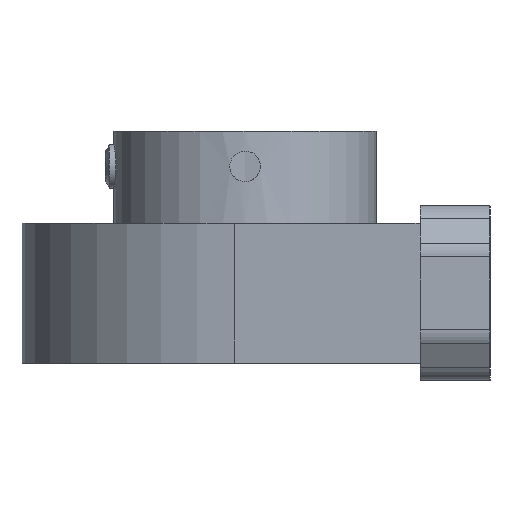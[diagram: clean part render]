
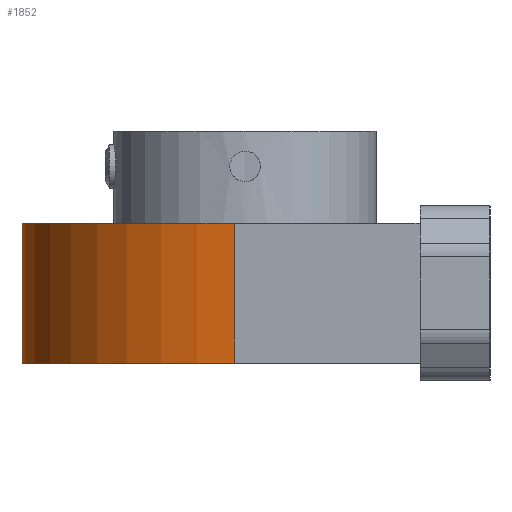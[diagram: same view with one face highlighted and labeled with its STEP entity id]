
A CAD part, left-side view. The second image highlights one B-rep face of the part: STEP entity #1852.
In plain terms, the highlighted cylindrical face has radius 25.5 mm (diameter 51 mm), a partial arc.
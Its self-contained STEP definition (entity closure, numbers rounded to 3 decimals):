
#1412=CARTESIAN_POINT('',(-25.47,1.235,-8.0));
#1413=VERTEX_POINT('',#1412);
#1420=CARTESIAN_POINT('',(25.47,1.235,-8.0));
#1421=VERTEX_POINT('',#1420);
#1422=CARTESIAN_POINT('',(0.0,0.0,-8.0));
#1423=DIRECTION('',(0.0,0.0,1.0));
#1424=DIRECTION('',(0.999,0.048,0.0));
#1425=AXIS2_PLACEMENT_3D('',#1422,#1423,#1424);
#1426=CIRCLE('',#1425,25.5);
#1427=EDGE_CURVE('',#1421,#1413,#1426,.T.);
#1748=CARTESIAN_POINT('',(25.47,1.235,8.0));
#1749=VERTEX_POINT('',#1748);
#1756=CARTESIAN_POINT('',(-25.47,1.235,8.0));
#1757=VERTEX_POINT('',#1756);
#1758=CARTESIAN_POINT('',(0.0,0.0,8.0));
#1759=DIRECTION('',(0.0,0.0,-1.0));
#1760=DIRECTION('',(0.999,0.048,0.0));
#1761=AXIS2_PLACEMENT_3D('',#1758,#1759,#1760);
#1762=CIRCLE('',#1761,25.5);
#1763=EDGE_CURVE('',#1757,#1749,#1762,.T.);
#1814=CARTESIAN_POINT('',(25.47,1.235,-8.0));
#1815=DIRECTION('',(0.0,0.0,1.0));
#1816=VECTOR('',#1815,16.0);
#1817=LINE('',#1814,#1816);
#1818=EDGE_CURVE('',#1421,#1749,#1817,.T.);
#1831=CARTESIAN_POINT('',(-25.47,1.235,-8.0));
#1832=DIRECTION('',(0.0,0.0,1.0));
#1833=VECTOR('',#1832,16.0);
#1834=LINE('',#1831,#1833);
#1835=EDGE_CURVE('',#1413,#1757,#1834,.T.);
#1841=CARTESIAN_POINT('',(0.0,0.0,0.0));
#1842=DIRECTION('',(0.0,0.0,1.0));
#1843=DIRECTION('',(0.999,0.048,0.0));
#1844=AXIS2_PLACEMENT_3D('',#1841,#1842,#1843);
#1845=CYLINDRICAL_SURFACE('',#1844,25.5);
#1846=ORIENTED_EDGE('',*,*,#1763,.T.);
#1847=ORIENTED_EDGE('',*,*,#1818,.F.);
#1848=ORIENTED_EDGE('',*,*,#1427,.T.);
#1849=ORIENTED_EDGE('',*,*,#1835,.T.);
#1850=EDGE_LOOP('',(#1846,#1847,#1848,#1849));
#1851=FACE_OUTER_BOUND('',#1850,.T.);
#1852=ADVANCED_FACE('',(#1851),#1845,.T.);
